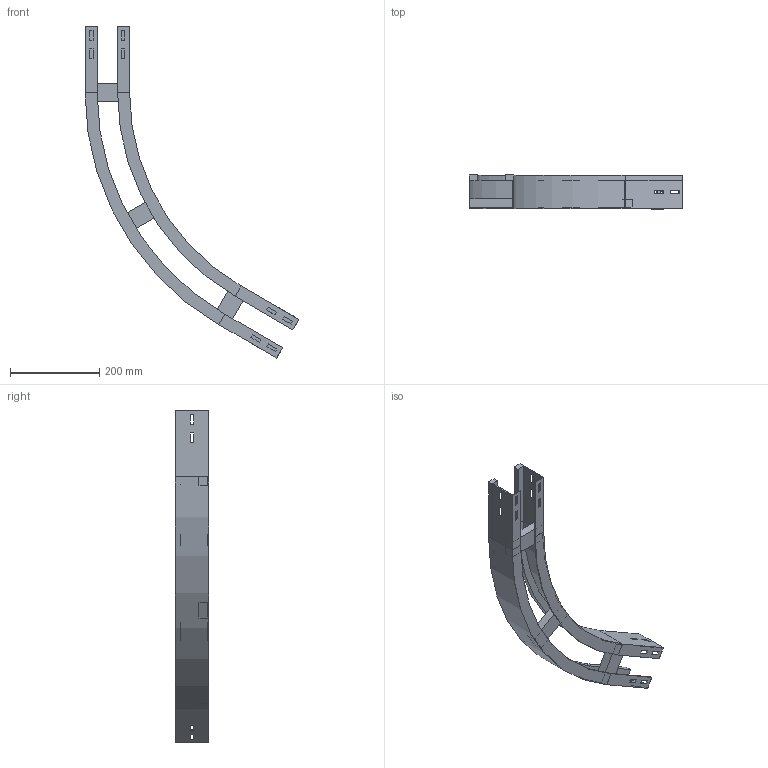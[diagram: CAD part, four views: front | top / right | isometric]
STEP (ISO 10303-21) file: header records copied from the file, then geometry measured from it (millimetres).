
FILE_DESCRIPTION (( 'STEP AP214' ), '1' );
FILE_NAME ('13B5C100.step', '2025-02-21T15:20:25', ( '' ), ( '' ), 'SwSTEP 2.0', 'SolidWorks 2023', '' );
FILE_SCHEMA (( 'AUTOMOTIVE_DESIGN' ));
Length unit declared in the file: millimetre
Products named in the file (4): TRAVERSINO_100; A2_LONGH.ESTERNO 60°_H75_R500+100; 13B5C100; A2_LONGH.INTERNO 60°_H75_R500
Assembly tree (5 placements, depth 2):
  13B5C100
    A2_LONGH.INTERNO 60°_H75_R500
    A2_LONGH.ESTERNO 60°_H75_R500+100
    TRAVERSINO_100  x3
Bounding box: 479.9 x 75 x 744.62 mm (x, y, z)
Volume: 915103.6 mm3; surface area: 451656.5 mm2
Topology: 5 solids, 5 shells, 134 faces, 340 edges, 216 vertices
Faces by surface type: plane 126, cylinder 8
Entity records: 3821 total; most frequent: CARTESIAN_POINT 646, ORIENTED_EDGE 632, DIRECTION 592, EDGE_CURVE 316, LINE 300, VECTOR 300, VERTEX_POINT 200, EDGE_LOOP 154
